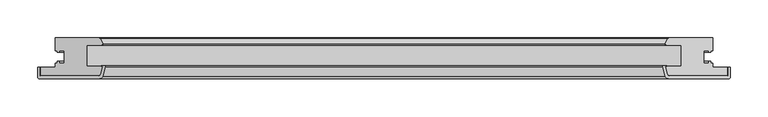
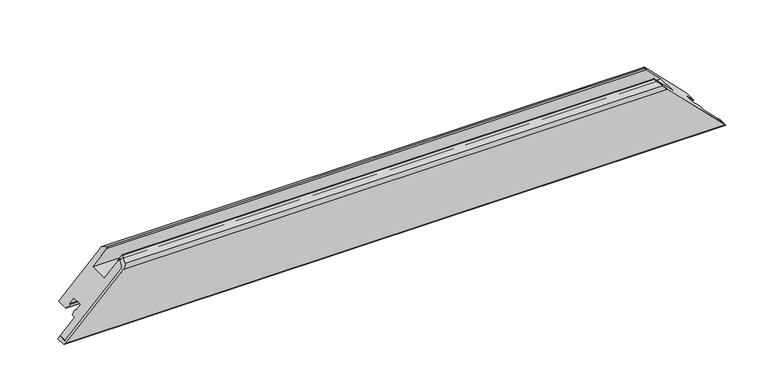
"""IFC4 building model written with IfcOpenShell, lengths in millimetres: proxy geometry, Weiku - Montante - Folha 02.2.01.018 : Weiku - Montante - Folha 02.2.01.018."""

from ifc_helpers import new_model, si_unit, frame, origin, place, context, project, spatial, polyline, ellipse_curve, source, transform, mapped, element, save
from ifc_brep_helpers import plane_surface, cylinder_surface, revolved_surface, advanced_brep


def generic_models_dd8dac3d(model_context):
    return source(origin(), model_context, "Body", "AdvancedBrep", [
        advanced_brep(
        [(453.5, -50.0, 0.0), (-453.5, -50.0, 0.0), (-376.4997332, -50.0, 77.0002668), (376.4997332, -50.0, 77.0002668), (-373.6019557, -47.7764571, 79.8980443), (373.6019557, -47.7764571, 79.8980443), (-371.0170371, -38.1294095, 82.4829629), (371.0170371, -38.1294095, 82.4829629), (-371.5, -37.5, 82.0), (371.5, -37.5, 82.0), (-372.3560102, -37.5, 81.1439898), (372.3560102, -37.5, 81.1439898), (-372.3560102, -36.5, 81.1439898), (372.3560102, -36.5, 81.1439898), (-367.7425588, -36.5, 85.7574412), (367.7425588, -36.5, 85.7574412), (-366.7766329, -37.758819, 86.7233671), (366.7766329, -37.758819, 86.7233671), (-370.1354501, -50.2940952, 83.3645499), (370.1354501, -50.2940952, 83.3645499), (-374.9650792, -54.0, 78.5349208), (374.9650792, -54.0, 78.5349208), (-454.5, -54.0, -1.0), (454.5, -54.0, -1.0), (-456.5, -52.0, -3.0), (456.5, -52.0, -3.0), (-456.5, -38.5, -3.0), (456.5, -38.5, -3.0), (-453.5, -38.5, 0.0), (453.5, -38.5, 0.0)],
        [
            (0, 1),
            (1, 2),
            (2, 3),
            (3, 0),
            (2, 4, ellipse_curve(frame((-376.4997332, -47.0, 77.0002668), z_axis=(-0.7071067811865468, 0.0, 0.7071067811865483), x_axis=(0.7071067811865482, 0.0, 0.7071067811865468)), 4.2426407, 3.0)),
            (4, 5),
            (5, 3, ellipse_curve(frame((376.4997332, -47.0, 77.0002668), z_axis=(0.7071067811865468, 0.0, 0.7071067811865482), x_axis=(0.7071067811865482, 0.0, -0.7071067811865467)), 4.2426407, 3.0)),
            (4, 6),
            (6, 7),
            (7, 5),
            (6, 8, ellipse_curve(frame((-371.5, -38.0, 82.0), z_axis=(-0.7071067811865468, 0.0, 0.7071067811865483), x_axis=(0.7071067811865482, 0.0, 0.7071067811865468)), 0.7071068, 0.5)),
            (8, 9),
            (9, 7, ellipse_curve(frame((371.5, -38.0, 82.0), z_axis=(0.7071067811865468, 0.0, 0.7071067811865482), x_axis=(0.7071067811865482, 0.0, -0.7071067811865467)), 0.7071068, 0.5)),
            (8, 10),
            (10, 11),
            (11, 9),
            (10, 12, ellipse_curve(frame((-372.3560102, -37.0, 81.1439898), z_axis=(0.7071067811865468, 0.0, -0.7071067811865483), x_axis=(-0.7071067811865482, 0.0, -0.7071067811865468)), 0.7071068, 0.5)),
            (12, 13),
            (13, 11, ellipse_curve(frame((372.3560102, -37.0, 81.1439898), z_axis=(-0.7071067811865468, 0.0, -0.7071067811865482), x_axis=(-0.7071067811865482, 0.0, 0.7071067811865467)), 0.7071068, 0.5)),
            (12, 14),
            (14, 15),
            (15, 13),
            (14, 16, ellipse_curve(frame((-367.7425588, -37.5, 85.7574412), z_axis=(0.7071067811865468, 0.0, -0.7071067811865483), x_axis=(-0.7071067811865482, 0.0, -0.7071067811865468)), 1.4142136, 1.0)),
            (16, 17),
            (17, 15, ellipse_curve(frame((367.7425588, -37.5, 85.7574412), z_axis=(-0.7071067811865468, 0.0, -0.7071067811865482), x_axis=(-0.7071067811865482, 0.0, 0.7071067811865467)), 1.4142136, 1.0)),
            (16, 18),
            (18, 19),
            (19, 17),
            (18, 20, ellipse_curve(frame((-374.9650792, -49.0, 78.5349208), z_axis=(0.7071067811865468, 0.0, -0.7071067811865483), x_axis=(-0.7071067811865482, 0.0, -0.7071067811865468)), 7.0710678, 5.0)),
            (20, 21),
            (21, 19, ellipse_curve(frame((374.9650792, -49.0, 78.5349208), z_axis=(-0.7071067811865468, 0.0, -0.7071067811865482), x_axis=(-0.7071067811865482, 0.0, 0.7071067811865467)), 7.0710678, 5.0)),
            (20, 22),
            (22, 23),
            (23, 21),
            (22, 24, ellipse_curve(frame((-454.5, -52.0, -1.0), z_axis=(0.7071067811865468, 0.0, -0.7071067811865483), x_axis=(-0.7071067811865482, 0.0, -0.7071067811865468)), 2.8284271, 2.0)),
            (24, 25),
            (25, 23, ellipse_curve(frame((454.5, -52.0, -1.0), z_axis=(-0.7071067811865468, 0.0, -0.7071067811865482), x_axis=(-0.7071067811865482, 0.0, 0.7071067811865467)), 2.8284271, 2.0)),
            (24, 26),
            (26, 27),
            (27, 25),
            (26, 28),
            (28, 29),
            (29, 27),
            (28, 1),
            (0, 29),
        ],
        [
            plane_surface(frame((-473.5, -50.0, 0.0), z_axis=(0.0, 1.0, 0.0), x_axis=(1.0, 0.0, 0.0))),
            revolved_surface(polyline([(379.49973320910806, -50.0, 77.0002668), (-379.49973320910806, -50.0, 77.0002668)]), (-473.5, -47.0, 77.0002668), (1.0, 0.0, 0.0)),
            plane_surface(frame((-473.5, -47.7764571, 79.8980443), z_axis=(0.0, 0.2588190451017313, -0.9659258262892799), x_axis=(1.0, 0.0, 0.0))),
            revolved_surface(polyline([(372.00000001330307, -38.5, 82.0), (-372.0000000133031, -38.5, 82.0)]), (-473.5, -38.0, 82.0), (1.0, 0.0, 0.0)),
            plane_surface(frame((-473.5, -37.5, 82.0), z_axis=(0.0, -1.0, 0.0), x_axis=(1.0, 0.0, 0.0))),
            cylinder_surface(frame((-473.5, -37.0, 81.1439898), z_axis=(-1.0, 0.0, 0.0), x_axis=(0.0, -1.0, 0.0)), 0.5),
            plane_surface(frame((-473.5, -36.5, 81.1439898), z_axis=(0.0, 1.0, 0.0), x_axis=(1.0, 0.0, 0.0))),
            cylinder_surface(frame((-473.5, -37.5, 85.7574412), z_axis=(-1.0, 0.0, 0.0), x_axis=(0.0, -1.0, 0.0)), 1.0),
            plane_surface(frame((-473.5, -37.758819, 86.7233671), z_axis=(0.0, -0.25881904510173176, 0.9659258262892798), x_axis=(1.0, 0.0, 0.0))),
            cylinder_surface(frame((-473.5, -49.0, 78.5349208), z_axis=(-1.0, 0.0, 0.0), x_axis=(0.0, -1.0, 0.0)), 5.0),
            plane_surface(frame((-473.5, -54.0, 78.5349208), z_axis=(0.0, -1.0, 0.0), x_axis=(1.0, 0.0, 0.0))),
            cylinder_surface(frame((-473.5, -52.0, -1.0), z_axis=(-1.0, 0.0, 0.0), x_axis=(0.0, -1.0, 0.0)), 2.0),
            plane_surface(frame((-473.5, -52.0, -3.0), z_axis=(0.0, 0.0, -1.0), x_axis=(1.0, 0.0, 0.0))),
            plane_surface(frame((-473.5, -38.5, -3.0), z_axis=(0.0, 1.0, 0.0), x_axis=(1.0, 0.0, 0.0))),
            plane_surface(frame((-473.5, -38.5, 0.0), z_axis=(0.0, 0.0, 1.0), x_axis=(1.0, 0.0, 0.0))),
            plane_surface(frame((363.5, 0.0, 90.0), z_axis=(0.7071067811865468, 0.0, 0.7071067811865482), x_axis=(0.0, -1.0, 0.0))),
            plane_surface(frame((-481.7842712, 0.0, -28.2842712), z_axis=(-0.7071067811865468, 0.0, 0.7071067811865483), x_axis=(0.0, -1.0, 0.0))),
        ],
        [
            (0, [[1, 2, 3, 4]]),
            (1, [[-3, 5, 6, 7]]),
            (2, [[-6, 8, 9, 10]]),
            (3, [[-9, 11, 12, 13]]),
            (4, [[-12, 14, 15, 16]]),
            (5, [[-15, 17, 18, 19]]),
            (6, [[-18, 20, 21, 22]]),
            (7, [[-21, 23, 24, 25]]),
            (8, [[-24, 26, 27, 28]]),
            (9, [[-27, 29, 30, 31]]),
            (10, [[-30, 32, 33, 34]]),
            (11, [[-33, 35, 36, 37]]),
            (12, [[-36, 38, 39, 40]]),
            (13, [[-39, 41, 42, 43]]),
            (14, [[-42, 44, -1, 45]]),
            (15, [[-7, -10, -13, -16, -19, -22, -25, -28, -31, -34, -37, -40, -43, -45, -4]]),
            (16, [[-44, -41, -38, -35, -32, -29, -26, -23, -20, -17, -14, -11, -8, -5, -2]]),
        ],
    ),
        advanced_brep(
        [(453.5, -50.0, 0.0), (376.4997332, -50.0, 77.0002668), (-376.4997332, -50.0, 77.0002668), (-453.5, -50.0, 0.0), (-453.5, -38.5, 0.0), (453.5, -38.5, 0.0), (-375.4872264, 0.0, 78.0127736), (375.4872264, 0.0, 78.0127736), (433.5, 0.0, 20.0), (-433.5, 0.0, 20.0), (-373.6019557, -47.7764571, 79.8980443), (-371.0170371, -38.1294095, 82.4829629), (-371.5, -37.5, 82.0), (-392.0, -37.5, 61.5), (-392.0, -9.5, 61.5), (-372.2134285, -9.5, 81.2865715), (-371.0512796, -7.617411, 82.4487204), (-374.5932657, -0.5518546, 78.9067343), (-433.5, -16.9, 20.0), (-431.3, -16.9, 22.2), (-431.3, -18.9, 22.2), (-428.5, -18.9, 25.0), (-428.5, -16.9, 25.0), (-422.0, -16.9, 31.5), (-422.0, -33.1, 31.5), (-428.5, -33.1, 25.0), (-428.5, -31.1, 25.0), (-431.3, -31.1, 22.2), (-431.3, -33.1, 22.2), (-433.5, -33.1, 20.0), (-433.5, -38.5, 20.0), (433.5, -38.5, 20.0), (433.5, -33.1, 20.0), (431.3, -33.1, 22.2), (431.3, -31.1, 22.2), (428.5, -31.1, 25.0), (428.5, -33.1, 25.0), (422.0, -33.1, 31.5), (422.0, -16.9, 31.5), (428.5, -16.9, 25.0), (428.5, -18.9, 25.0), (431.3, -18.9, 22.2), (431.3, -16.9, 22.2), (433.5, -16.9, 20.0), (374.5932657, -0.5518546, 78.9067343), (371.0512796, -7.617411, 82.4487204), (372.2134285, -9.5, 81.2865715), (392.0, -9.5, 61.5), (392.0, -37.5, 61.5), (371.5, -37.5, 82.0), (371.0170371, -38.1294095, 82.4829629), (373.6019557, -47.7764571, 79.8980443)],
        [
            (0, 1),
            (1, 2),
            (2, 3),
            (3, 0),
            (3, 4),
            (4, 5),
            (5, 0),
            (6, 7),
            (7, 8),
            (8, 9),
            (9, 6),
            (2, 10, ellipse_curve(frame((-376.4997332, -47.0, 77.0002668), z_axis=(-0.7071067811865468, 0.0, 0.7071067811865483), x_axis=(-0.7071067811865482, 0.0, -0.7071067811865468)), 4.2426407, 3.0)),
            (10, 11),
            (11, 12, ellipse_curve(frame((-371.5, -38.0, 82.0), z_axis=(-0.7071067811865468, 0.0, 0.7071067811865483), x_axis=(-0.7071067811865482, 0.0, -0.7071067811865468)), 0.7071068, 0.5)),
            (12, 13),
            (13, 14),
            (14, 15),
            (15, 16, ellipse_curve(frame((-372.2134285, -8.2, 81.2865715), z_axis=(-0.7071067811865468, 0.0, 0.7071067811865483), x_axis=(-0.7071067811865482, 0.0, -0.7071067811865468)), 1.8384776, 1.3)),
            (16, 17),
            (17, 6, ellipse_curve(frame((-375.4872264, -1.0, 78.0127736), z_axis=(-0.7071067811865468, 0.0, 0.7071067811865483), x_axis=(-0.7071067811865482, 0.0, -0.7071067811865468)), 1.4142136, 1.0)),
            (9, 18),
            (18, 19),
            (19, 20),
            (20, 21),
            (21, 22),
            (22, 23),
            (23, 24),
            (24, 25),
            (25, 26),
            (26, 27),
            (27, 28),
            (28, 29),
            (29, 30),
            (30, 4),
            (5, 31),
            (31, 32),
            (32, 33),
            (33, 34),
            (34, 35),
            (35, 36),
            (36, 37),
            (37, 38),
            (38, 39),
            (39, 40),
            (40, 41),
            (41, 42),
            (42, 43),
            (43, 8),
            (7, 44, ellipse_curve(frame((375.4872264, -1.0, 78.0127736), z_axis=(0.7071067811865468, 0.0, 0.7071067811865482), x_axis=(-0.7071067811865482, 0.0, 0.7071067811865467)), 1.4142136, 1.0)),
            (44, 45),
            (45, 46, ellipse_curve(frame((372.2134285, -8.2, 81.2865715), z_axis=(0.7071067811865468, 0.0, 0.7071067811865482), x_axis=(-0.7071067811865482, 0.0, 0.7071067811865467)), 1.8384776, 1.3)),
            (46, 47),
            (47, 48),
            (48, 49),
            (49, 50, ellipse_curve(frame((371.5, -38.0, 82.0), z_axis=(0.7071067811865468, 0.0, 0.7071067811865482), x_axis=(-0.7071067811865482, 0.0, 0.7071067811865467)), 0.7071068, 0.5)),
            (50, 51),
            (51, 1, ellipse_curve(frame((376.4997332, -47.0, 77.0002668), z_axis=(0.7071067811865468, 0.0, 0.7071067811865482), x_axis=(-0.7071067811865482, 0.0, 0.7071067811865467)), 4.2426407, 3.0)),
            (17, 44),
            (16, 45),
            (15, 46),
            (14, 47),
            (13, 48),
            (12, 49),
            (11, 50),
            (10, 51),
            (30, 31),
            (29, 32),
            (28, 33),
            (27, 34),
            (26, 35),
            (25, 36),
            (24, 37),
            (23, 38),
            (22, 39),
            (21, 40),
            (20, 41),
            (19, 42),
            (18, 43),
        ],
        [
            plane_surface(frame((-453.5, -50.0, 77.0002668), z_axis=(0.0, -1.0, 0.0), x_axis=(1.0, 0.0, 0.0))),
            plane_surface(frame((-453.5, -50.0, 0.0), z_axis=(0.0, 0.0, -1.0), x_axis=(1.0, 0.0, 0.0))),
            plane_surface(frame((-453.5, 0.0, 20.0), z_axis=(0.0, 1.0, 0.0), x_axis=(1.0, 0.0, 0.0))),
            plane_surface(frame((-481.7842712, 0.0, -28.2842712), z_axis=(-0.7071067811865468, 0.0, 0.7071067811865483), x_axis=(0.0, -1.0, 0.0))),
            plane_surface(frame((363.5, 0.0, 90.0), z_axis=(0.7071067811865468, 0.0, 0.7071067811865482), x_axis=(0.0, -1.0, 0.0))),
            cylinder_surface(frame((-453.5, -1.0, 78.0127736), z_axis=(-1.0, 0.0, 0.0), x_axis=(0.0, -1.0, 0.0)), 1.0),
            plane_surface(frame((-453.5, -0.5518546, 78.9067343), z_axis=(0.0, 0.4481453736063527, 0.8939606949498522), x_axis=(1.0, 0.0, 0.0))),
            cylinder_surface(frame((-453.5, -8.2, 81.2865715), z_axis=(-1.0, 0.0, 0.0), x_axis=(0.0, -1.0, 0.0)), 1.3),
            plane_surface(frame((-453.5, -9.5, 81.2865715), z_axis=(0.0, -1.0, 0.0), x_axis=(1.0, 0.0, 0.0))),
            plane_surface(frame((-453.5, -9.5, 61.5), z_axis=(0.0, 0.0, 1.0), x_axis=(1.0, 0.0, 0.0))),
            plane_surface(frame((-453.5, -37.5, 61.5), z_axis=(0.0, 1.0, 0.0), x_axis=(1.0, 0.0, 0.0))),
            cylinder_surface(frame((-453.5, -38.0, 82.0), z_axis=(-1.0, 0.0, 0.0), x_axis=(0.0, -1.0, 0.0)), 0.5),
            plane_surface(frame((-453.5, -38.1294095, 82.4829629), z_axis=(0.0, -0.2588190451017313, 0.9659258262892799), x_axis=(1.0, 0.0, 0.0))),
            cylinder_surface(frame((-453.5, -47.0, 77.0002668), z_axis=(-1.0, 0.0, 0.0), x_axis=(0.0, -1.0, 0.0)), 3.0),
            plane_surface(frame((-453.5, -38.5, 0.0), z_axis=(0.0, 1.0, 0.0), x_axis=(1.0, 0.0, 0.0))),
            plane_surface(frame((-453.5, -38.5, 20.0), z_axis=(0.0, 0.0, -1.0), x_axis=(1.0, 0.0, 0.0))),
            plane_surface(frame((-453.5, -33.1, 20.0), z_axis=(0.0, 1.0, 0.0), x_axis=(1.0, 0.0, 0.0))),
            plane_surface(frame((-453.5, -33.1, 22.2), z_axis=(0.0, 0.0, -1.0), x_axis=(1.0, 0.0, 0.0))),
            plane_surface(frame((-453.5, -31.1, 22.2), z_axis=(0.0, 1.0, 0.0), x_axis=(1.0, 0.0, 0.0))),
            plane_surface(frame((-453.5, -31.1, 25.0), z_axis=(0.0, 0.0, 1.0), x_axis=(1.0, 0.0, 0.0))),
            plane_surface(frame((-453.5, -33.1, 25.0), z_axis=(0.0, 1.0, 0.0), x_axis=(1.0, 0.0, 0.0))),
            plane_surface(frame((-453.5, -33.1, 31.5), z_axis=(0.0, 0.0, -1.0), x_axis=(1.0, 0.0, 0.0))),
            plane_surface(frame((-453.5, -16.9, 31.5), z_axis=(0.0, -1.0, 0.0), x_axis=(1.0, 0.0, 0.0))),
            plane_surface(frame((-453.5, -16.9, 25.0), z_axis=(0.0, 0.0, 1.0), x_axis=(1.0, 0.0, 0.0))),
            plane_surface(frame((-453.5, -18.9, 25.0), z_axis=(0.0, -1.0, 0.0), x_axis=(1.0, 0.0, 0.0))),
            plane_surface(frame((-453.5, -18.9, 22.2), z_axis=(0.0, 0.0, -1.0), x_axis=(1.0, 0.0, 0.0))),
            plane_surface(frame((-453.5, -16.9, 22.2), z_axis=(0.0, -1.0, 0.0), x_axis=(1.0, 0.0, 0.0))),
            plane_surface(frame((-453.5, -16.9, 20.0), z_axis=(0.0, 0.0, -1.0), x_axis=(1.0, 0.0, 0.0))),
        ],
        [
            (0, [[1, 2, 3, 4]]),
            (1, [[5, 6, 7, -4]]),
            (2, [[8, 9, 10, 11]]),
            (3, [[12, 13, 14, 15, 16, 17, 18, 19, 20, -11, 21, 22, 23, 24, 25, 26, 27, 28, 29, 30, 31, 32, 33, 34, -5, -3]]),
            (4, [[-7, 35, 36, 37, 38, 39, 40, 41, 42, 43, 44, 45, 46, 47, 48, -9, 49, 50, 51, 52, 53, 54, 55, 56, 57, -1]]),
            (5, [[58, -49, -8, -20]]),
            (6, [[59, -50, -58, -19]]),
            (7, [[60, -51, -59, -18]]),
            (8, [[61, -52, -60, -17]]),
            (9, [[62, -53, -61, -16]]),
            (10, [[63, -54, -62, -15]]),
            (11, [[64, -55, -63, -14]]),
            (12, [[65, -56, -64, -13]]),
            (13, [[-2, -57, -65, -12]]),
            (14, [[-34, 66, -35, -6]]),
            (15, [[67, -36, -66, -33]]),
            (16, [[68, -37, -67, -32]]),
            (17, [[69, -38, -68, -31]]),
            (18, [[70, -39, -69, -30]]),
            (19, [[71, -40, -70, -29]]),
            (20, [[72, -41, -71, -28]]),
            (21, [[73, -42, -72, -27]]),
            (22, [[74, -43, -73, -26]]),
            (23, [[75, -44, -74, -25]]),
            (24, [[76, -45, -75, -24]]),
            (25, [[77, -46, -76, -23]]),
            (26, [[78, -47, -77, -22]]),
            (27, [[-10, -48, -78, -21]]),
        ],
    ),
    ])


if __name__ == "__main__":
    model = new_model("IFC4")
    model_context = context("Model", 3, world=origin())
    ifc_project = project(units=[si_unit("LENGTHUNIT", "METRE", prefix="MILLI")], contexts=[model_context])
    site = spatial("IfcSite", under=ifc_project)
    building = spatial("IfcBuilding", under=site)
    placement = place(None, origin())
    generic_models_shape = generic_models_dd8dac3d(model_context)
    element("IfcBuildingElementProxy", 1, Name="Weiku - Montante - Folha 02.2.01.018 : Weiku - Montante - Folha 02.2.01.018", ObjectType="Weiku - Montante - Folha 02.2.01.018 : Weiku - Montante - Folha 02.2.01.018", at=placement, inside=building, context=model_context, shape_type="MappedRepresentation", body=[
        mapped(generic_models_shape, transform((0.0, 0.0, 0.0), x_axis=(1.0, 0.0, 0.0), y_axis=(0.0, 1.0, 0.0), z_axis=(0.0, 0.0, 1.0))),
    ])
    save(model, "model.ifc")
